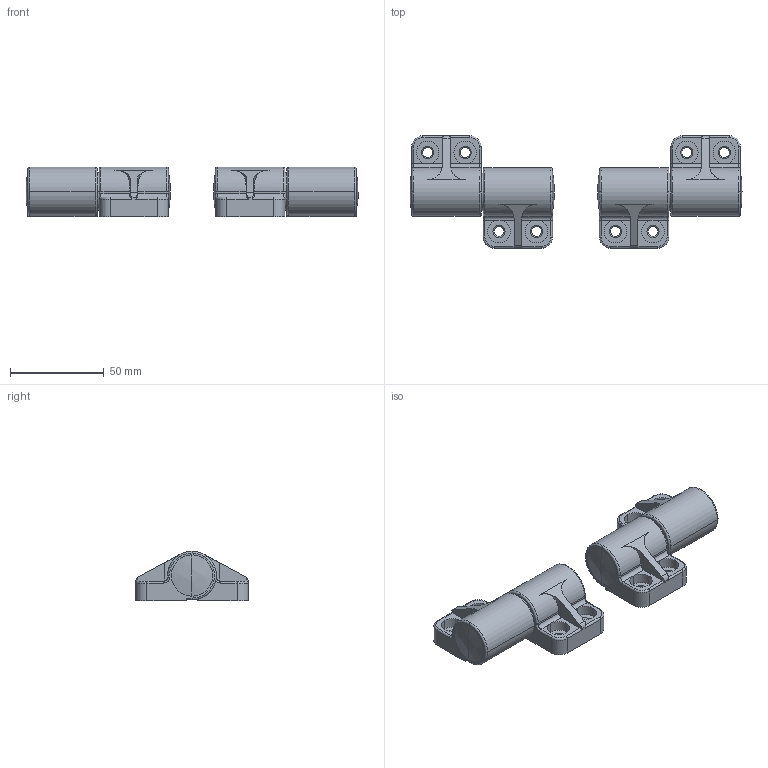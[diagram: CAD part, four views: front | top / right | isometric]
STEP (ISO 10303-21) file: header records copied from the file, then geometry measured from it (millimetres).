
FILE_DESCRIPTION(('STEP AP214'),'1');
FILE_NAME('12-7-4241.stp','2018-01-10T11:07:13',('TraceParts'),('TraceParts S.A.'),'Spatial InterOp 3D',' ',' ');
FILE_SCHEMA(('automotive_design'));
Length unit declared in the file: millimetre
Products named in the file (6): 12-7-4241_1; 12-7-4241_2; 12-7-4241_3; 12-7-4241_4; 12-7-4241_5; 12-7-4241_6
Bounding box: 176.78 x 60 x 26.5 mm (x, y, z)
Volume: 106987.5 mm3; surface area: 33593.1 mm2
Topology: 6 solids, 6 shells, 308 faces, 732 edges, 456 vertices
Faces by surface type: cylinder 148, plane 92, torus 44, cone 16, sphere 8
Entity records: 9498 total; most frequent: CARTESIAN_POINT 1998, DIRECTION 1704, ORIENTED_EDGE 1464, EDGE_CURVE 732, AXIS2_PLACEMENT_3D 690, VERTEX_POINT 456, CIRCLE 360, EDGE_LOOP 344
